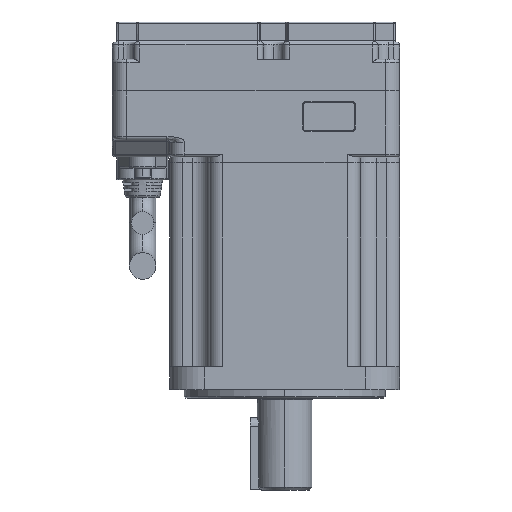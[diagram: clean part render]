
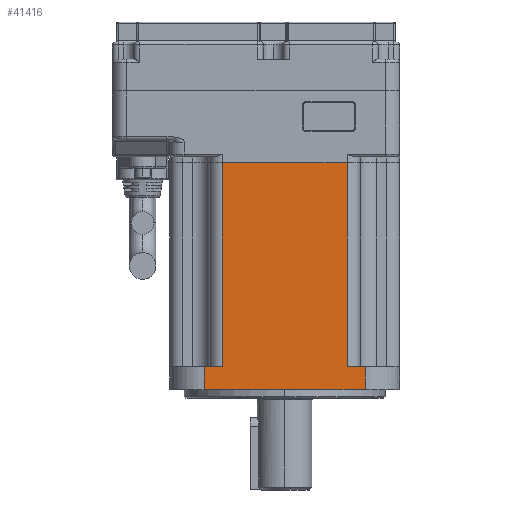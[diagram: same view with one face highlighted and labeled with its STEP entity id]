
A CAD part, left-side view. The second image highlights one B-rep face of the part: STEP entity #41416.
In plain terms, the highlighted planar face has unit normal (-1, 0, 0).
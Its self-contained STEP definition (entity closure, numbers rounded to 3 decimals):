
#36924=DIRECTION('',(0.,0.,1.));
#36925=VECTOR('',#36924,71.);
#36926=CARTESIAN_POINT('',(-40.,21.75,43.));
#36927=LINE('',#36926,#36925);
#36944=DIRECTION('',(0.,-1.,0.));
#36945=VECTOR('',#36944,56.);
#36946=CARTESIAN_POINT('',(-40.,28.,35.));
#36947=LINE('',#36946,#36945);
#36948=DIRECTION('',(0.,1.,0.));
#36949=VECTOR('',#36948,6.25);
#36950=CARTESIAN_POINT('',(-40.,21.75,43.));
#36951=LINE('',#36950,#36949);
#36952=DIRECTION('',(0.,1.,0.));
#36953=VECTOR('',#36952,43.5);
#36954=CARTESIAN_POINT('',(-40.,-21.75,114.));
#36955=LINE('',#36954,#36953);
#36956=DIRECTION('',(0.,1.,0.));
#36957=VECTOR('',#36956,6.25);
#36958=CARTESIAN_POINT('',(-40.,-28.,43.));
#36959=LINE('',#36958,#36957);
#36964=DIRECTION('',(0.,0.,1.));
#36965=VECTOR('',#36964,8.);
#36966=CARTESIAN_POINT('',(-40.,28.,35.));
#36967=LINE('',#36966,#36965);
#36968=DIRECTION('',(0.,0.,-1.));
#36969=VECTOR('',#36968,71.);
#36970=CARTESIAN_POINT('',(-40.,-21.75,114.));
#36971=LINE('',#36970,#36969);
#37038=DIRECTION('',(0.,0.,-1.));
#37039=VECTOR('',#37038,8.);
#37040=CARTESIAN_POINT('',(-40.,-28.,43.));
#37041=LINE('',#37040,#37039);
#40246=CARTESIAN_POINT('',(-40.,-28.,43.));
#40247=CARTESIAN_POINT('',(-40.,-28.,35.));
#40248=VERTEX_POINT('',#40246);
#40249=VERTEX_POINT('',#40247);
#40316=CARTESIAN_POINT('',(-40.,28.,35.));
#40318=VERTEX_POINT('',#40316);
#40429=CARTESIAN_POINT('',(-40.,-21.75,114.));
#40430=CARTESIAN_POINT('',(-40.,21.75,114.));
#40431=VERTEX_POINT('',#40429);
#40432=VERTEX_POINT('',#40430);
#40443=CARTESIAN_POINT('',(-40.,21.75,43.));
#40444=VERTEX_POINT('',#40443);
#40495=CARTESIAN_POINT('',(-40.,-21.75,43.));
#40496=VERTEX_POINT('',#40495);
#40674=CARTESIAN_POINT('',(-40.,28.,43.));
#40675=VERTEX_POINT('',#40674);
#41397=CARTESIAN_POINT('',(-40.,-40.,43.));
#41398=DIRECTION('',(1.,0.,0.));
#41399=DIRECTION('',(0.,1.,0.));
#41400=AXIS2_PLACEMENT_3D('',#41397,#41398,#41399);
#41401=PLANE('',#41400);
#41402=ORIENTED_EDGE('',*,*,#41079,.F.);
#41404=ORIENTED_EDGE('',*,*,#41403,.T.);
#41405=ORIENTED_EDGE('',*,*,#41324,.F.);
#41406=ORIENTED_EDGE('',*,*,#41354,.T.);
#41407=ORIENTED_EDGE('',*,*,#40908,.F.);
#41409=ORIENTED_EDGE('',*,*,#41408,.T.);
#41411=ORIENTED_EDGE('',*,*,#41410,.F.);
#41413=ORIENTED_EDGE('',*,*,#41412,.T.);
#41414=EDGE_LOOP('',(#41402,#41404,#41405,#41406,#41407,#41409,#41411,#41413));
#41415=FACE_OUTER_BOUND('',#41414,.F.);
#41416=ADVANCED_FACE('',(#41415),#41401,.F.);
#40908=EDGE_CURVE('',#40431,#40432,#36955,.T.);
#41079=EDGE_CURVE('',#40318,#40249,#36947,.T.);
#41324=EDGE_CURVE('',#40444,#40675,#36951,.T.);
#41354=EDGE_CURVE('',#40444,#40432,#36927,.T.);
#41403=EDGE_CURVE('',#40318,#40675,#36967,.T.);
#41408=EDGE_CURVE('',#40431,#40496,#36971,.T.);
#41410=EDGE_CURVE('',#40248,#40496,#36959,.T.);
#41412=EDGE_CURVE('',#40248,#40249,#37041,.T.);
